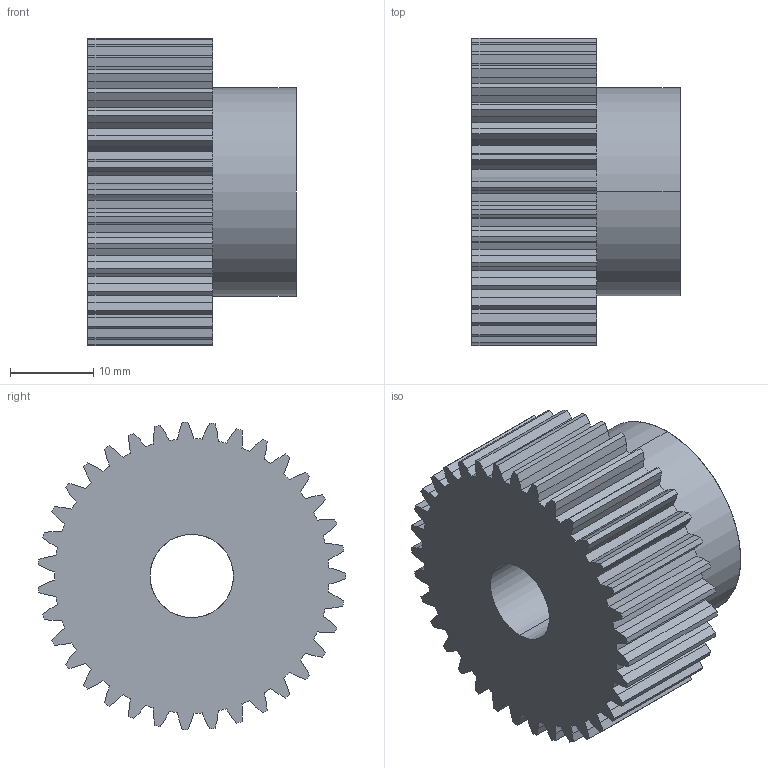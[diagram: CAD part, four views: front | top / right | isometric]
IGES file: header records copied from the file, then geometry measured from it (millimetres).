
Start section: SolidWorks IGES file using analytic representation for surfaces
Global section: file name: C:\Users\Honza\Desktop\Èelní ozubená kola\rozbalene\PM\MODUL 1\PM 26035.IGS; native system: SolidWorks 2010; preprocessor: SolidWorks 2010; author: Honza; date: 130923.144134; units: millimetre
Bounding box: 25 x 36.95 x 36.99 mm (x, y, z)
Surface area: 6424.3 mm2 (no closed solid volume)
Topology: 0 solids, 0 shells, 217 faces, 1404 edges, 1404 vertices
Faces by surface type: bspline 143, revolution 74
